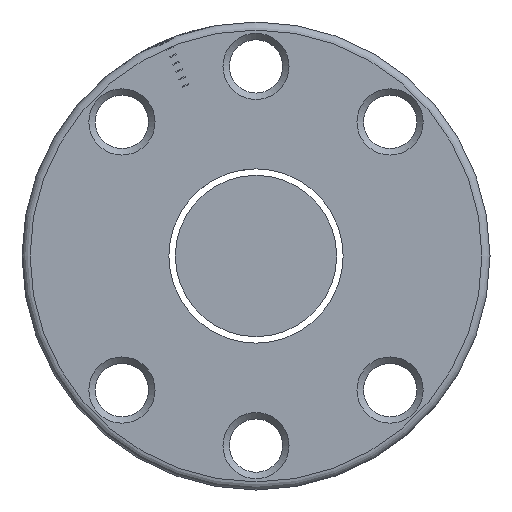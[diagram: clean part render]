
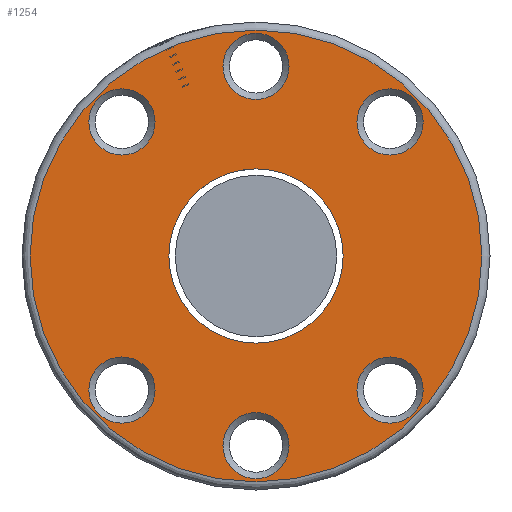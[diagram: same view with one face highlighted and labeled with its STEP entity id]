
A CAD part, left-side view. The second image highlights one B-rep face of the part: STEP entity #1254.
In plain terms, the highlighted planar face has unit normal (-1, 0, 0).
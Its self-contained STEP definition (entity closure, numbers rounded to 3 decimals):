
#9 = CIRCLE ( 'NONE', #2688, 28. ) ;
#29 = CARTESIAN_POINT ( 'NONE',  ( -42., -16.617, 16.617 ) ) ;
#48 = VERTEX_POINT ( 'NONE', #1545 ) ;
#64 = VERTEX_POINT ( 'NONE', #2169 ) ;
#70 = EDGE_CURVE ( 'NONE', #620, #620, #1754, .T. ) ;
#120 = EDGE_LOOP ( 'NONE', ( #347 ) ) ;
#182 = ORIENTED_EDGE ( 'NONE', *, *, #2306, .T. ) ;
#199 = VERTEX_POINT ( 'NONE', #1039 ) ;
#266 = CARTESIAN_POINT ( 'NONE',  ( -42., 0., 27.6 ) ) ;
#278 = EDGE_CURVE ( 'NONE', #199, #199, #1847, .T. ) ;
#326 = FACE_BOUND ( 'NONE', #120, .T. ) ;
#347 = ORIENTED_EDGE ( 'NONE', *, *, #1598, .T. ) ;
#350 = ORIENTED_EDGE ( 'NONE', *, *, #278, .T. ) ;
#495 = FACE_BOUND ( 'NONE', #607, .T. ) ;
#503 = VERTEX_POINT ( 'NONE', #702 ) ;
#522 = CARTESIAN_POINT ( 'NONE',  ( -42., 16.617, 16.617 ) ) ;
#524 = DIRECTION ( 'NONE',  ( 1., 0., 0. ) ) ;
#538 = FACE_BOUND ( 'NONE', #1525, .T. ) ;
#567 = DIRECTION ( 'NONE',  ( 1., 0., 0. ) ) ;
#589 = CIRCLE ( 'NONE', #980, 4.1 ) ;
#607 = EDGE_LOOP ( 'NONE', ( #1642 ) ) ;
#620 = VERTEX_POINT ( 'NONE', #1451 ) ;
#656 = CARTESIAN_POINT ( 'NONE',  ( -42., 16.617, -16.617 ) ) ;
#665 = AXIS2_PLACEMENT_3D ( 'NONE', #656, #860, #1485 ) ;
#668 = DIRECTION ( 'NONE',  ( 1., 0., 0. ) ) ;
#688 = VERTEX_POINT ( 'NONE', #266 ) ;
#702 = CARTESIAN_POINT ( 'NONE',  ( -42., 0., -10.8 ) ) ;
#715 = CIRCLE ( 'NONE', #2507, 4.1 ) ;
#761 = CIRCLE ( 'NONE', #1022, 10.8 ) ;
#795 = EDGE_LOOP ( 'NONE', ( #182 ) ) ;
#833 = ORIENTED_EDGE ( 'NONE', *, *, #1053, .T. ) ;
#860 = DIRECTION ( 'NONE',  ( 1., 0., 0. ) ) ;
#890 = VERTEX_POINT ( 'NONE', #2565 ) ;
#892 = CIRCLE ( 'NONE', #1020, 4.1 ) ;
#930 = AXIS2_PLACEMENT_3D ( 'NONE', #2054, #567, #1400 ) ;
#947 = FACE_BOUND ( 'NONE', #1435, .T. ) ;
#949 = DIRECTION ( 'NONE',  ( 0., 0., 1. ) ) ;
#957 = ORIENTED_EDGE ( 'NONE', *, *, #2173, .T. ) ;
#980 = AXIS2_PLACEMENT_3D ( 'NONE', #1531, #524, #949 ) ;
#1020 = AXIS2_PLACEMENT_3D ( 'NONE', #1356, #2201, #1997 ) ;
#1022 = AXIS2_PLACEMENT_3D ( 'NONE', #1844, #2496, #1388 ) ;
#1039 = CARTESIAN_POINT ( 'NONE',  ( -42., 16.617, -12.517 ) ) ;
#1053 = EDGE_CURVE ( 'NONE', #64, #64, #715, .T. ) ;
#1090 = DIRECTION ( 'NONE',  ( -1., 0., 0. ) ) ;
#1126 = DIRECTION ( 'NONE',  ( -1., 0., 0. ) ) ;
#1167 = PLANE ( 'NONE',  #2381 ) ;
#1194 = EDGE_CURVE ( 'NONE', #1750, #1750, #892, .T. ) ;
#1254 = ADVANCED_FACE ( 'NONE', ( #2416, #947, #2011, #495, #538, #1373, #1332, #326 ), #1167, .T. ) ;
#1332 = FACE_BOUND ( 'NONE', #795, .T. ) ;
#1356 = CARTESIAN_POINT ( 'NONE',  ( -42., -16.617, -16.617 ) ) ;
#1373 = FACE_BOUND ( 'NONE', #1819, .T. ) ;
#1388 = DIRECTION ( 'NONE',  ( 0., 0., -1. ) ) ;
#1400 = DIRECTION ( 'NONE',  ( 0., 0., 1. ) ) ;
#1413 = EDGE_CURVE ( 'NONE', #48, #48, #2118, .T. ) ;
#1435 = EDGE_LOOP ( 'NONE', ( #833 ) ) ;
#1438 = ORIENTED_EDGE ( 'NONE', *, *, #70, .T. ) ;
#1447 = DIRECTION ( 'NONE',  ( 0., 0., 1. ) ) ;
#1451 = CARTESIAN_POINT ( 'NONE',  ( -42., -16.617, 20.717 ) ) ;
#1485 = DIRECTION ( 'NONE',  ( 0., 0., 1. ) ) ;
#1524 = CARTESIAN_POINT ( 'NONE',  ( -42., 29., 0. ) ) ;
#1525 = EDGE_LOOP ( 'NONE', ( #1852 ) ) ;
#1531 = CARTESIAN_POINT ( 'NONE',  ( -42., 0., 23.5 ) ) ;
#1545 = CARTESIAN_POINT ( 'NONE',  ( -42., 0., -19.4 ) ) ;
#1598 = EDGE_CURVE ( 'NONE', #503, #503, #761, .T. ) ;
#1642 = ORIENTED_EDGE ( 'NONE', *, *, #1413, .T. ) ;
#1750 = VERTEX_POINT ( 'NONE', #2592 ) ;
#1754 = CIRCLE ( 'NONE', #2460, 4.1 ) ;
#1819 = EDGE_LOOP ( 'NONE', ( #1438 ) ) ;
#1844 = CARTESIAN_POINT ( 'NONE',  ( -42., 0., 0. ) ) ;
#1847 = CIRCLE ( 'NONE', #665, 4.1 ) ;
#1852 = ORIENTED_EDGE ( 'NONE', *, *, #1194, .T. ) ;
#1931 = DIRECTION ( 'NONE',  ( 0., 0., 1. ) ) ;
#1968 = DIRECTION ( 'NONE',  ( 0., 0., 1. ) ) ;
#1997 = DIRECTION ( 'NONE',  ( 0., 0., 1. ) ) ;
#2011 = FACE_BOUND ( 'NONE', #2454, .T. ) ;
#2054 = CARTESIAN_POINT ( 'NONE',  ( -42., 0., -23.5 ) ) ;
#2118 = CIRCLE ( 'NONE', #930, 4.1 ) ;
#2134 = EDGE_LOOP ( 'NONE', ( #957 ) ) ;
#2169 = CARTESIAN_POINT ( 'NONE',  ( -42., 16.617, 20.717 ) ) ;
#2173 = EDGE_CURVE ( 'NONE', #890, #890, #9, .T. ) ;
#2201 = DIRECTION ( 'NONE',  ( 1., 0., 0. ) ) ;
#2306 = EDGE_CURVE ( 'NONE', #688, #688, #589, .T. ) ;
#2381 = AXIS2_PLACEMENT_3D ( 'NONE', #1524, #1126, #1968 ) ;
#2416 = FACE_OUTER_BOUND ( 'NONE', #2134, .T. ) ;
#2418 = CARTESIAN_POINT ( 'NONE',  ( -42., 0., 0. ) ) ;
#2454 = EDGE_LOOP ( 'NONE', ( #350 ) ) ;
#2460 = AXIS2_PLACEMENT_3D ( 'NONE', #29, #668, #1447 ) ;
#2496 = DIRECTION ( 'NONE',  ( 1., 0., 0. ) ) ;
#2507 = AXIS2_PLACEMENT_3D ( 'NONE', #522, #2585, #2624 ) ;
#2565 = CARTESIAN_POINT ( 'NONE',  ( -42., 0., 28. ) ) ;
#2585 = DIRECTION ( 'NONE',  ( 1., 0., 0. ) ) ;
#2592 = CARTESIAN_POINT ( 'NONE',  ( -42., -16.617, -12.517 ) ) ;
#2624 = DIRECTION ( 'NONE',  ( 0., 0., 1. ) ) ;
#2688 = AXIS2_PLACEMENT_3D ( 'NONE', #2418, #1090, #1931 ) ;
